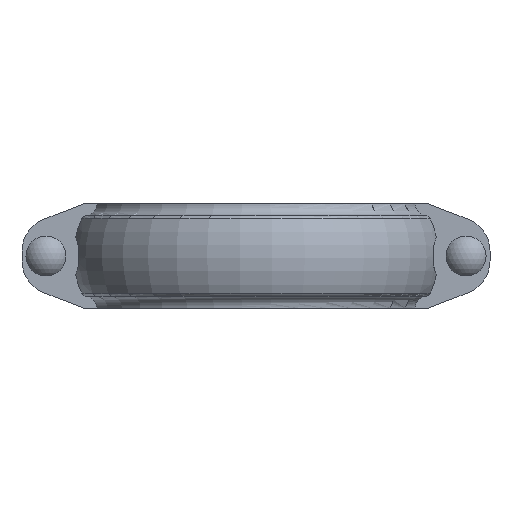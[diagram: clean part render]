
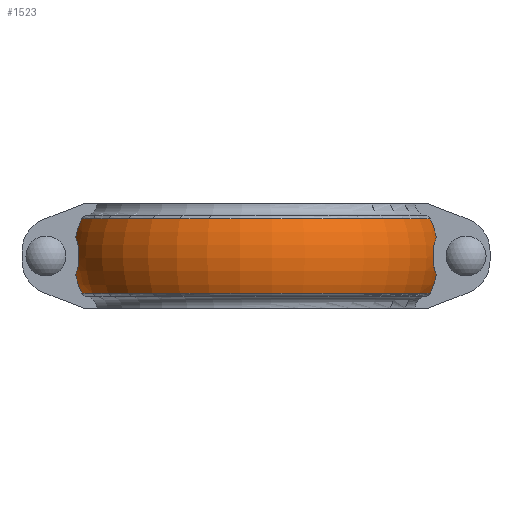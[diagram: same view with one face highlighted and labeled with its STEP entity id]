
A CAD part, front view. The second image highlights one B-rep face of the part: STEP entity #1523.
In plain terms, the highlighted toroidal (fillet/blend) face has major radius 53.975 mm and minor radius 50.8 mm.
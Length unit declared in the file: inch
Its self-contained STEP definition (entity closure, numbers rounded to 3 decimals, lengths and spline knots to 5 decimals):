
#47=TOROIDAL_SURFACE('',#1655,2.125,2.);
#70=B_SPLINE_CURVE_WITH_KNOTS('',3,(#2491,#2492,#2493,#2494,#2495,#2496,
#2497,#2498,#2499,#2500),.UNSPECIFIED.,.F.,.F.,(4,2,2,2,4),(-1.27805,
-0.83397,-0.46071,-0.19235,0.),
 .UNSPECIFIED.);
#71=B_SPLINE_CURVE_WITH_KNOTS('',3,(#2506,#2507,#2508,#2509,#2510,#2511),
 .UNSPECIFIED.,.F.,.F.,(4,2,4),(13.21676,13.43987,13.66298),
 .UNSPECIFIED.);
#72=B_SPLINE_CURVE_WITH_KNOTS('',3,(#2517,#2518,#2519,#2520,#2521,#2522,
#2523,#2524,#2525,#2526),.UNSPECIFIED.,.F.,.F.,(4,2,2,2,4),(-1.65088,
-1.48032,-1.29861,-0.86571,0.),
 .UNSPECIFIED.);
#73=B_SPLINE_CURVE_WITH_KNOTS('',3,(#2530,#2531,#2532,#2533,#2534,#2535),
 .UNSPECIFIED.,.F.,.F.,(4,2,4),(35.00803,35.17872,36.04967),
 .UNSPECIFIED.);
#78=B_SPLINE_CURVE_WITH_KNOTS('',3,(#2606,#2607,#2608,#2609,#2610,#2611),
 .UNSPECIFIED.,.F.,.F.,(4,2,4),(38.00424,38.87518,39.04588),
 .UNSPECIFIED.);
#79=B_SPLINE_CURVE_WITH_KNOTS('',3,(#2616,#2617,#2618,#2619,#2620,#2621),
 .UNSPECIFIED.,.F.,.F.,(4,2,4),(10.32339,10.49409,11.36503),
 .UNSPECIFIED.);
#80=B_SPLINE_CURVE_WITH_KNOTS('',3,(#2623,#2624,#2625,#2626,#2627,#2628,
#2629,#2630,#2631,#2632),.UNSPECIFIED.,.F.,.F.,(4,2,2,2,4),(-1.27805,
-0.83397,-0.46071,-0.19235,0.),
 .UNSPECIFIED.);
#81=B_SPLINE_CURVE_WITH_KNOTS('',3,(#2634,#2635,#2636,#2637,#2638,#2639),
 .UNSPECIFIED.,.F.,.F.,(4,2,4),(4.25685,4.47996,4.70307),
 .UNSPECIFIED.);
#82=B_SPLINE_CURVE_WITH_KNOTS('',3,(#2641,#2642,#2643,#2644,#2645,#2646,
#2647,#2648,#2649,#2650),.UNSPECIFIED.,.F.,.F.,(4,2,2,2,4),(-1.65088,
-1.48032,-1.29861,-0.86571,0.),.UNSPECIFIED.);
#83=B_SPLINE_CURVE_WITH_KNOTS('',3,(#2652,#2653,#2654,#2655,#2656,#2657),
 .UNSPECIFIED.,.F.,.F.,(4,2,4),(13.3196,14.19055,14.36124),
 .UNSPECIFIED.);
#186=FACE_OUTER_BOUND('',#271,.T.);
#271=EDGE_LOOP('',(#1145,#1146,#1147,#1148,#1149,#1150,#1151,#1152,#1153,
#1154,#1155,#1156));
#570=CIRCLE('',#1656,3.95188);
#571=CIRCLE('',#1657,3.95188);
#678=VERTEX_POINT('',#2489);
#679=VERTEX_POINT('',#2490);
#681=VERTEX_POINT('',#2505);
#683=VERTEX_POINT('',#2516);
#684=VERTEX_POINT('',#2529);
#695=VERTEX_POINT('',#2597);
#696=VERTEX_POINT('',#2613);
#697=VERTEX_POINT('',#2615);
#698=VERTEX_POINT('',#2622);
#699=VERTEX_POINT('',#2633);
#700=VERTEX_POINT('',#2640);
#701=VERTEX_POINT('',#2651);
#843=EDGE_CURVE('',#678,#679,#70,.T.);
#846=EDGE_CURVE('',#679,#681,#71,.T.);
#849=EDGE_CURVE('',#681,#683,#72,.T.);
#851=EDGE_CURVE('',#684,#678,#73,.T.);
#863=EDGE_CURVE('',#683,#695,#78,.T.);
#864=EDGE_CURVE('',#695,#696,#570,.T.);
#865=EDGE_CURVE('',#696,#697,#79,.T.);
#866=EDGE_CURVE('',#697,#698,#80,.T.);
#867=EDGE_CURVE('',#698,#699,#81,.T.);
#868=EDGE_CURVE('',#699,#700,#82,.T.);
#869=EDGE_CURVE('',#700,#701,#83,.T.);
#870=EDGE_CURVE('',#684,#701,#571,.T.);
#1145=ORIENTED_EDGE('',*,*,#843,.T.);
#1146=ORIENTED_EDGE('',*,*,#846,.T.);
#1147=ORIENTED_EDGE('',*,*,#849,.T.);
#1148=ORIENTED_EDGE('',*,*,#863,.T.);
#1149=ORIENTED_EDGE('',*,*,#864,.T.);
#1150=ORIENTED_EDGE('',*,*,#865,.T.);
#1151=ORIENTED_EDGE('',*,*,#866,.T.);
#1152=ORIENTED_EDGE('',*,*,#867,.T.);
#1153=ORIENTED_EDGE('',*,*,#868,.T.);
#1154=ORIENTED_EDGE('',*,*,#869,.T.);
#1155=ORIENTED_EDGE('',*,*,#870,.F.);
#1156=ORIENTED_EDGE('',*,*,#851,.T.);
#1523=ADVANCED_FACE('',(#186),#47,.T.);
#1655=AXIS2_PLACEMENT_3D('',#2612,#1944,#1945);
#1656=AXIS2_PLACEMENT_3D('',#2614,#1946,#1947);
#1657=AXIS2_PLACEMENT_3D('',#2658,#1948,#1949);
#1944=DIRECTION('center_axis',(0.,0.,-1.));
#1945=DIRECTION('ref_axis',(1.,0.,0.));
#1946=DIRECTION('center_axis',(0.,0.,-1.));
#1947=DIRECTION('ref_axis',(-1.,0.,0.));
#1948=DIRECTION('center_axis',(0.,0.,-1.));
#1949=DIRECTION('ref_axis',(-1.,0.,0.));
#2489=CARTESIAN_POINT('',(3.95166,-1.029,-0.40563));
#2490=CARTESIAN_POINT('',(3.88,-1.39412,-0.0925));
#2491=CARTESIAN_POINT('Ctrl Pts',(3.95166,-1.029,-0.40563));
#2492=CARTESIAN_POINT('Ctrl Pts',(3.94188,-1.08316,-0.3854));
#2493=CARTESIAN_POINT('Ctrl Pts',(3.93137,-1.1375,-0.3613));
#2494=CARTESIAN_POINT('Ctrl Pts',(3.91275,-1.22962,-0.30868));
#2495=CARTESIAN_POINT('Ctrl Pts',(3.90399,-1.27121,-0.28));
#2496=CARTESIAN_POINT('Ctrl Pts',(3.89136,-1.33144,-0.22228));
#2497=CARTESIAN_POINT('Ctrl Pts',(3.88659,-1.35431,-0.19457));
#2498=CARTESIAN_POINT('Ctrl Pts',(3.8813,-1.38242,-0.14126));
#2499=CARTESIAN_POINT('Ctrl Pts',(3.88,-1.3907,-0.11751));
#2500=CARTESIAN_POINT('Ctrl Pts',(3.88,-1.39412,-0.0925));
#2505=CARTESIAN_POINT('',(3.88,-1.39412,0.0925));
#2506=CARTESIAN_POINT('Ctrl Pts',(3.88,-1.39412,-0.0925));
#2507=CARTESIAN_POINT('Ctrl Pts',(3.88,-1.39845,-0.06086));
#2508=CARTESIAN_POINT('Ctrl Pts',(3.88,-1.40044,-0.02928));
#2509=CARTESIAN_POINT('Ctrl Pts',(3.88,-1.40044,0.02928));
#2510=CARTESIAN_POINT('Ctrl Pts',(3.88,-1.39845,0.06086));
#2511=CARTESIAN_POINT('Ctrl Pts',(3.88,-1.39412,0.0925));
#2516=CARTESIAN_POINT('',(3.95166,-1.029,0.40563));
#2517=CARTESIAN_POINT('Ctrl Pts',(3.88,-1.39412,0.0925));
#2518=CARTESIAN_POINT('Ctrl Pts',(3.88,-1.39198,0.10811));
#2519=CARTESIAN_POINT('Ctrl Pts',(3.88051,-1.38795,0.12328));
#2520=CARTESIAN_POINT('Ctrl Pts',(3.88243,-1.37631,0.15361));
#2521=CARTESIAN_POINT('Ctrl Pts',(3.88388,-1.36857,0.1685));
#2522=CARTESIAN_POINT('Ctrl Pts',(3.88988,-1.3382,0.2161));
#2523=CARTESIAN_POINT('Ctrl Pts',(3.89597,-1.30951,0.2455));
#2524=CARTESIAN_POINT('Ctrl Pts',(3.91519,-1.21783,0.3208));
#2525=CARTESIAN_POINT('Ctrl Pts',(3.93272,-1.13394,0.36643));
#2526=CARTESIAN_POINT('Ctrl Pts',(3.95166,-1.029,0.40563));
#2529=CARTESIAN_POINT('',(3.81556,-1.029,-0.81395));
#2530=CARTESIAN_POINT('Ctrl Pts',(3.81556,-1.029,-0.81395));
#2531=CARTESIAN_POINT('Ctrl Pts',(3.82523,-1.029,-0.793));
#2532=CARTESIAN_POINT('Ctrl Pts',(3.8344,-1.029,-0.77215));
#2533=CARTESIAN_POINT('Ctrl Pts',(3.88731,-1.029,-0.6461));
#2534=CARTESIAN_POINT('Ctrl Pts',(3.92559,-1.029,-0.52744));
#2535=CARTESIAN_POINT('Ctrl Pts',(3.95166,-1.029,-0.40563));
#2597=CARTESIAN_POINT('',(3.81556,-1.029,0.81395));
#2606=CARTESIAN_POINT('Ctrl Pts',(3.95166,-1.029,0.40563));
#2607=CARTESIAN_POINT('Ctrl Pts',(3.92559,-1.029,0.52744));
#2608=CARTESIAN_POINT('Ctrl Pts',(3.88731,-1.029,0.6461));
#2609=CARTESIAN_POINT('Ctrl Pts',(3.8344,-1.029,0.77215));
#2610=CARTESIAN_POINT('Ctrl Pts',(3.82523,-1.029,0.793));
#2611=CARTESIAN_POINT('Ctrl Pts',(3.81556,-1.029,0.81395));
#2612=CARTESIAN_POINT('Origin',(0.,0.,0.));
#2613=CARTESIAN_POINT('',(-3.81556,-1.029,0.81395));
#2614=CARTESIAN_POINT('Origin',(0.,0.,0.81395));
#2615=CARTESIAN_POINT('',(-3.95166,-1.029,0.40563));
#2616=CARTESIAN_POINT('Ctrl Pts',(-3.81556,-1.029,0.81395));
#2617=CARTESIAN_POINT('Ctrl Pts',(-3.82523,-1.029,0.793));
#2618=CARTESIAN_POINT('Ctrl Pts',(-3.8344,-1.029,0.77215));
#2619=CARTESIAN_POINT('Ctrl Pts',(-3.88731,-1.029,0.6461));
#2620=CARTESIAN_POINT('Ctrl Pts',(-3.92559,-1.029,0.52744));
#2621=CARTESIAN_POINT('Ctrl Pts',(-3.95166,-1.029,0.40563));
#2622=CARTESIAN_POINT('',(-3.88,-1.39412,0.0925));
#2623=CARTESIAN_POINT('Ctrl Pts',(-3.95166,-1.029,0.40563));
#2624=CARTESIAN_POINT('Ctrl Pts',(-3.94188,-1.08316,0.3854));
#2625=CARTESIAN_POINT('Ctrl Pts',(-3.93137,-1.1375,0.3613));
#2626=CARTESIAN_POINT('Ctrl Pts',(-3.91275,-1.22962,0.30868));
#2627=CARTESIAN_POINT('Ctrl Pts',(-3.90399,-1.27121,0.28));
#2628=CARTESIAN_POINT('Ctrl Pts',(-3.89136,-1.33144,0.22228));
#2629=CARTESIAN_POINT('Ctrl Pts',(-3.88659,-1.35431,0.19457));
#2630=CARTESIAN_POINT('Ctrl Pts',(-3.8813,-1.38242,0.14126));
#2631=CARTESIAN_POINT('Ctrl Pts',(-3.88,-1.3907,0.11751));
#2632=CARTESIAN_POINT('Ctrl Pts',(-3.88,-1.39412,0.0925));
#2633=CARTESIAN_POINT('',(-3.88,-1.39412,-0.0925));
#2634=CARTESIAN_POINT('Ctrl Pts',(-3.88,-1.39412,0.0925));
#2635=CARTESIAN_POINT('Ctrl Pts',(-3.88,-1.39845,0.06086));
#2636=CARTESIAN_POINT('Ctrl Pts',(-3.88,-1.40044,0.02928));
#2637=CARTESIAN_POINT('Ctrl Pts',(-3.88,-1.40044,-0.02928));
#2638=CARTESIAN_POINT('Ctrl Pts',(-3.88,-1.39845,-0.06086));
#2639=CARTESIAN_POINT('Ctrl Pts',(-3.88,-1.39412,-0.0925));
#2640=CARTESIAN_POINT('',(-3.95166,-1.029,-0.40563));
#2641=CARTESIAN_POINT('Ctrl Pts',(-3.88,-1.39412,-0.0925));
#2642=CARTESIAN_POINT('Ctrl Pts',(-3.88,-1.39198,-0.10811));
#2643=CARTESIAN_POINT('Ctrl Pts',(-3.88051,-1.38795,-0.12328));
#2644=CARTESIAN_POINT('Ctrl Pts',(-3.88243,-1.37631,-0.15361));
#2645=CARTESIAN_POINT('Ctrl Pts',(-3.88388,-1.36857,-0.1685));
#2646=CARTESIAN_POINT('Ctrl Pts',(-3.88988,-1.3382,-0.2161));
#2647=CARTESIAN_POINT('Ctrl Pts',(-3.89597,-1.30951,-0.2455));
#2648=CARTESIAN_POINT('Ctrl Pts',(-3.91519,-1.21783,-0.3208));
#2649=CARTESIAN_POINT('Ctrl Pts',(-3.93272,-1.13394,-0.36643));
#2650=CARTESIAN_POINT('Ctrl Pts',(-3.95166,-1.029,-0.40563));
#2651=CARTESIAN_POINT('',(-3.81556,-1.029,-0.81395));
#2652=CARTESIAN_POINT('Ctrl Pts',(-3.95166,-1.029,-0.40563));
#2653=CARTESIAN_POINT('Ctrl Pts',(-3.92559,-1.029,-0.52744));
#2654=CARTESIAN_POINT('Ctrl Pts',(-3.88731,-1.029,-0.6461));
#2655=CARTESIAN_POINT('Ctrl Pts',(-3.8344,-1.029,-0.77215));
#2656=CARTESIAN_POINT('Ctrl Pts',(-3.82523,-1.029,-0.793));
#2657=CARTESIAN_POINT('Ctrl Pts',(-3.81556,-1.029,-0.81395));
#2658=CARTESIAN_POINT('Origin',(0.,0.,-0.81395));
